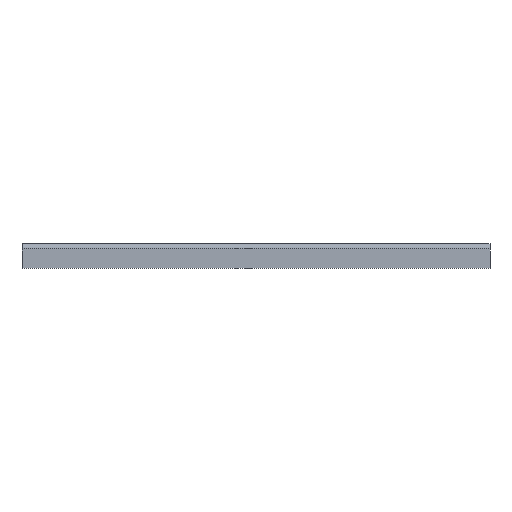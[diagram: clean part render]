
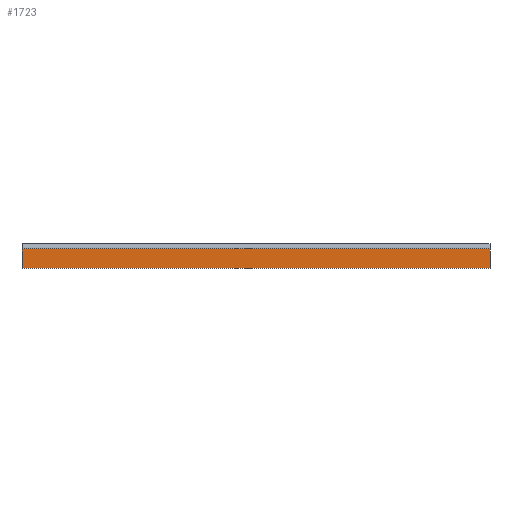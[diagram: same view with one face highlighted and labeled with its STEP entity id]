
A CAD part, front view. The second image highlights one B-rep face of the part: STEP entity #1723.
In plain terms, the highlighted planar face has unit normal (0, -1, 0).
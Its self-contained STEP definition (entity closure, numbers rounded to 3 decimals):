
#33 = VERTEX_POINT ( 'NONE', #3674 ) ;
#74 = DIRECTION ( 'NONE',  ( 0., 0., -1. ) ) ;
#161 = ORIENTED_EDGE ( 'NONE', *, *, #2494, .F. ) ;
#421 = ORIENTED_EDGE ( 'NONE', *, *, #2300, .F. ) ;
#430 = VERTEX_POINT ( 'NONE', #2099 ) ;
#511 = CARTESIAN_POINT ( 'NONE',  ( 4178.96, 262.965, -4.5 ) ) ;
#816 = ORIENTED_EDGE ( 'NONE', *, *, #2445, .F. ) ;
#959 = CARTESIAN_POINT ( 'NONE',  ( 0., 262.965, 0. ) ) ;
#1386 = VERTEX_POINT ( 'NONE', #511 ) ;
#1534 = DIRECTION ( 'NONE',  ( 0., 0., -1. ) ) ;
#1542 = CARTESIAN_POINT ( 'NONE',  ( 4178.96, 262.965, -3. ) ) ;
#1621 = VECTOR ( 'NONE', #1863, 1000. ) ;
#1657 = LINE ( 'NONE', #1542, #1621 ) ;
#1723 = ADVANCED_FACE ( 'NONE', ( #3288 ), #3301, .T. ) ;
#1808 = VECTOR ( 'NONE', #1534, 1000. ) ;
#1818 = LINE ( 'NONE', #3305, #1808 ) ;
#1833 = DIRECTION ( 'NONE',  ( 0., -1., 0. ) ) ;
#1863 = DIRECTION ( 'NONE',  ( 0., 0., 1. ) ) ;
#2012 = DIRECTION ( 'NONE',  ( -1., 0., 0. ) ) ;
#2099 = CARTESIAN_POINT ( 'NONE',  ( 4578.96, 262.965, -21. ) ) ;
#2113 = LINE ( 'NONE', #2898, #2156 ) ;
#2156 = VECTOR ( 'NONE', #2012, 1000. ) ;
#2208 = AXIS2_PLACEMENT_3D ( 'NONE', #959, #1833, #74 ) ;
#2300 = EDGE_CURVE ( 'NONE', #430, #33, #2113, .T. ) ;
#2380 = CARTESIAN_POINT ( 'NONE',  ( 0., 262.965, -4.5 ) ) ;
#2445 = EDGE_CURVE ( 'NONE', #3091, #430, #1818, .T. ) ;
#2494 = EDGE_CURVE ( 'NONE', #33, #1386, #1657, .T. ) ;
#2534 = CARTESIAN_POINT ( 'NONE',  ( 4578.96, 262.965, -4.5 ) ) ;
#2673 = DIRECTION ( 'NONE',  ( -1., 0., 0. ) ) ;
#2898 = CARTESIAN_POINT ( 'NONE',  ( 4178.96, 262.965, -21. ) ) ;
#3091 = VERTEX_POINT ( 'NONE', #2534 ) ;
#3176 = VECTOR ( 'NONE', #2673, 1000. ) ;
#3259 = ORIENTED_EDGE ( 'NONE', *, *, #3596, .T. ) ;
#3288 = FACE_OUTER_BOUND ( 'NONE', #3697, .T. ) ;
#3301 = PLANE ( 'NONE',  #2208 ) ;
#3305 = CARTESIAN_POINT ( 'NONE',  ( 4578.96, 262.965, -21. ) ) ;
#3353 = LINE ( 'NONE', #2380, #3176 ) ;
#3596 = EDGE_CURVE ( 'NONE', #3091, #1386, #3353, .T. ) ;
#3674 = CARTESIAN_POINT ( 'NONE',  ( 4178.96, 262.965, -21. ) ) ;
#3697 = EDGE_LOOP ( 'NONE', ( #816, #3259, #161, #421 ) ) ;
